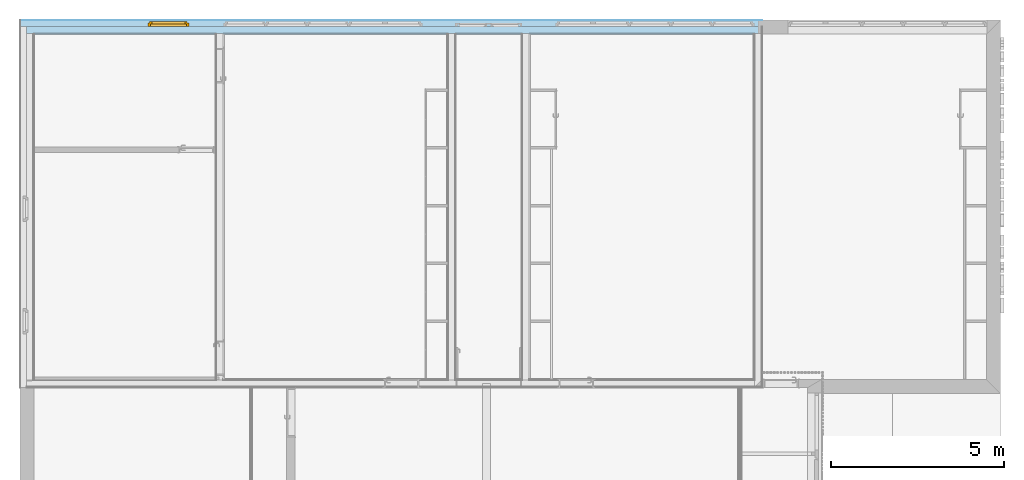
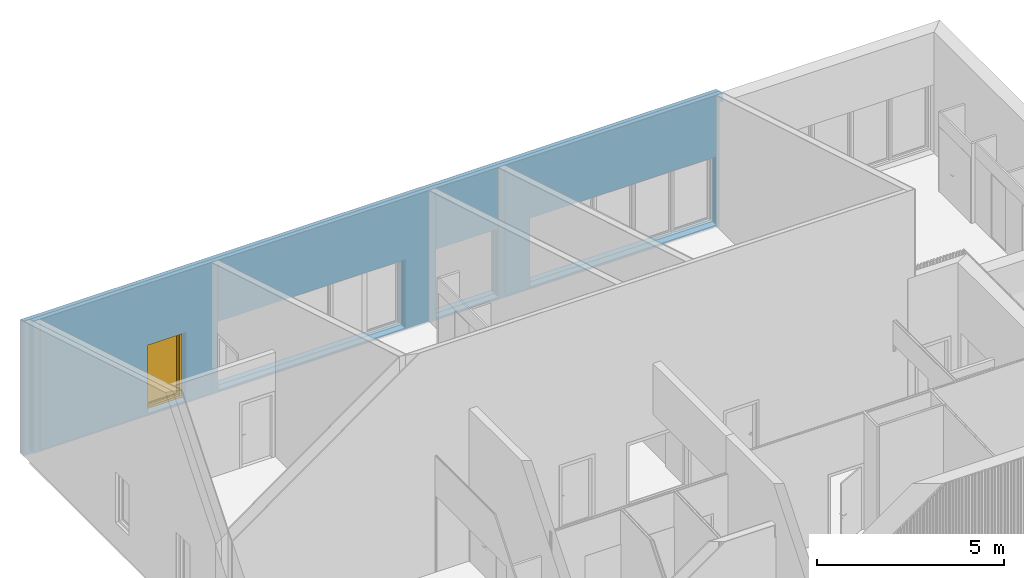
# One storey, part 19 of 34: 1 window, 4 openings, 1 element without a shape of its own, plus 4 elements that do not belong to this part.
"""IFC2X3 building model written with IfcOpenShell, lengths in metres."""

from ifc_helpers import new_model, entity, si_unit, converted_unit, derived_unit, money_unit, direction, frame, origin_with_axes, origin_2d_with_axis, place, context, subcontext, project, spatial, polyline, rectangle, outline, extrude, boolean, open_shell, faceted_brep, surface_model, material, type_object, element, fill, aggregate, save


model = new_model("IFC2X3")

# Units and contexts
model_context = context("Model", 3, precision=1e-05, world=origin_with_axes(), true_north=direction((0.0, 1.0)))
body_context = subcontext(model_context, "Body", "Model", "MODEL_VIEW")
ifc_project = project(units=[si_unit("LENGTHUNIT", "METRE"), si_unit("AREAUNIT", "SQUARE_METRE"), si_unit("VOLUMEUNIT", "CUBIC_METRE"), converted_unit("PLANEANGLEUNIT", "DEGREE", entity("IfcPlaneAngleMeasure", 0.0174532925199), si_unit("PLANEANGLEUNIT", "RADIAN"), dimensions=[0, 0, 0, 0, 0, 0, 0]), money_unit("CHF"), converted_unit("TIMEUNIT", "Year", entity("IfcTimeMeasure", 31556926.0), si_unit("TIMEUNIT", "SECOND"), dimensions=[0, 0, 1, 0, 0, 0, 0]), si_unit("MASSUNIT", "GRAM", prefix="KILO"), si_unit("THERMODYNAMICTEMPERATUREUNIT", "DEGREE_CELSIUS"), si_unit("LUMINOUSINTENSITYUNIT", "LUMEN"), si_unit("ENERGYUNIT", "JOULE", prefix="MEGA"), derived_unit("THERMALCONDUCTANCEUNIT", [(si_unit("POWERUNIT", "WATT"), 1), (si_unit("LENGTHUNIT", "METRE"), -1), (si_unit("THERMODYNAMICTEMPERATUREUNIT", "KELVIN"), -1)]), derived_unit("SPECIFICHEATCAPACITYUNIT", [(si_unit("ENERGYUNIT", "JOULE"), 1), (si_unit("MASSUNIT", "GRAM", prefix="KILO"), -1), (si_unit("THERMODYNAMICTEMPERATUREUNIT", "KELVIN"), -1)]), derived_unit("MASSDENSITYUNIT", [(si_unit("MASSUNIT", "GRAM", prefix="KILO"), 1), (si_unit("VOLUMEUNIT", "CUBIC_METRE"), -1)])], contexts=[model_context])

# Site, building, storey
site_placement = place(None, origin_with_axes())
site = spatial("IfcSite", under=ifc_project, at=site_placement, Name="Site", CompositionType="ELEMENT")
building_placement = place(site_placement, origin_with_axes())
building = spatial("IfcBuilding", under=site, at=building_placement, Name="Bâtiment", CompositionType="ELEMENT")
storey_placement = place(building_placement, origin_with_axes())
storey = spatial("IfcBuildingStorey", under=building, at=storey_placement, Name="Rez-de-chaussée", CompositionType="ELEMENT", Elevation=0.0)

# Window
window_style = type_object("IfcWindowStyle", Name="Fenêtre 26", ConstructionType="NOTDEFINED", OperationType="SINGLE_PANEL", ParameterTakesPrecedence=False, Sizeable=False)
wall_placement = place(storey_placement, frame((11.1494697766, 25.2201256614, -0.21), z_axis=(0.0, 0.0, 1.0), x_axis=(1.0, 0.0, 0.0)))
opening_3_placement = place(wall_placement, frame((4.0, 0.0, 0.21), z_axis=(0.0, 0.0, 1.0), x_axis=(1.0, 0.0, 0.0)))
window_placement = place(opening_3_placement, frame((-0.59, 0.0, 0.0), z_axis=(0.0, 0.0, 1.0), x_axis=(1.0, 0.0, 0.0)))
window = element("IfcWindow", 1, at=window_placement, inside=storey, type_object=window_style, Name="FENETRE-005", ObjectType="WINDOW", OverallHeight=2.25, OverallWidth=1.18, context=body_context, shape_type="SurfaceModel", body=[
    faceted_brep([(1.135, 0.2, 2.18), (1.135, 0.175, 2.18), (1.11, 0.175, 2.18), (1.11, 0.1, 2.18), (1.18, 0.1, 2.18), (1.18, 0.2, 2.18), (1.135, 0.2, 0.07), (1.135, 0.175, 0.07), (1.11, 0.175, 0.07), (1.11, 0.1, 0.07), (1.18, 0.1, 0.07), (1.18, 0.2, 0.07)], [[[0, 1, 2, 3, 4, 5]], [[1, 0, 6, 7]], [[8, 2, 1, 7]], [[2, 8, 9, 3]], [[4, 3, 9, 10]], [[5, 4, 10, 11]], [[6, 0, 5, 11]], [[7, 6, 11, 10, 9, 8]]]),
    faceted_brep([(0.07, 0.175, 2.18), (0.045, 0.175, 2.18), (0.045, 0.2, 2.18), (0.0, 0.2, 2.18), (0.0, 0.1, 2.18), (0.07, 0.1, 2.18), (0.07, 0.175, 0.07), (0.045, 0.175, 0.07), (0.045, 0.2, 0.07), (0.0, 0.2, 0.07), (0.0, 0.1, 0.07), (0.07, 0.1, 0.07)], [[[0, 1, 2, 3, 4, 5]], [[1, 0, 6, 7]], [[8, 2, 1, 7]], [[2, 8, 9, 3]], [[9, 10, 4, 3]], [[10, 11, 5, 4]], [[6, 0, 5, 11]], [[7, 6, 11, 10, 9, 8]]]),
    faceted_brep([(0.07, 0.175, 0.07), (0.045, 0.175, 0.07), (0.045, 0.2, 0.07), (0.0, 0.2, 0.07), (0.0, 0.1, 0.07), (0.07, 0.1, 0.07), (1.11, 0.175, 0.07), (1.135, 0.175, 0.07), (1.135, 0.175, 0.045), (0.045, 0.175, 0.045), (0.045, 0.2, 0.045), (1.135, 0.2, 0.045), (1.135, 0.2, 0.07), (1.18, 0.2, 0.07), (1.18, 0.2, 0.0), (0.0, 0.2, 0.0), (0.0, 0.1, 0.0), (1.18, 0.1, 0.07), (1.11, 0.1, 0.07), (1.18, 0.1, 0.0)], [[[0, 1, 2, 3, 4, 5]], [[1, 0, 6, 7, 8, 9]], [[10, 2, 1, 9]], [[11, 12, 13, 14, 15, 3, 2, 10]], [[15, 16, 4, 3]], [[17, 18, 5, 4, 16, 19]], [[6, 0, 5, 18]], [[7, 6, 18, 17, 13, 12]], [[7, 12, 11, 8]], [[11, 10, 9, 8]], [[13, 17, 19, 14]], [[14, 19, 16, 15]]]),
    faceted_brep([(1.135, 0.2, 2.18), (1.135, 0.2, 2.205), (0.045, 0.2, 2.205), (0.045, 0.2, 2.18), (0.0, 0.2, 2.18), (0.0, 0.2, 2.25), (1.18, 0.2, 2.25), (1.18, 0.2, 2.18), (1.135, 0.175, 2.18), (1.135, 0.175, 2.205), (0.045, 0.175, 2.205), (0.045, 0.175, 2.18), (0.07, 0.175, 2.18), (0.07, 0.1, 2.18), (0.0, 0.1, 2.18), (0.0, 0.1, 2.25), (1.18, 0.1, 2.25), (1.18, 0.1, 2.18), (1.11, 0.1, 2.18), (1.11, 0.175, 2.18)], [[[0, 1, 2, 3, 4, 5, 6, 7]], [[1, 0, 8, 9]], [[2, 1, 9, 10]], [[3, 2, 10, 11]], [[11, 12, 13, 14, 4, 3]], [[4, 14, 15, 5]], [[5, 15, 16, 6]], [[6, 16, 17, 7]], [[8, 0, 7, 17, 18, 19]], [[12, 11, 10, 9, 8, 19]], [[12, 19, 18, 13]], [[14, 13, 18, 17, 16, 15]]]),
    faceted_brep([(1.065, 0.175, 2.135), (1.135, 0.175, 2.135), (1.135, 0.245, 2.135), (1.065, 0.245, 2.135), (1.065, 0.175, 0.115), (1.135, 0.175, 0.115), (1.135, 0.245, 0.115), (1.065, 0.245, 0.115)], [[[0, 1, 2, 3]], [[0, 4, 5, 1]], [[1, 5, 6, 2]], [[3, 2, 6, 7]], [[4, 0, 3, 7]], [[5, 4, 7, 6]]]),
    faceted_brep([(0.115, 0.175, 0.115), (0.045, 0.175, 0.115), (0.045, 0.245, 0.115), (0.115, 0.245, 0.115), (0.115, 0.175, 2.135), (0.045, 0.175, 2.135), (0.045, 0.245, 2.135), (0.115, 0.245, 2.135)], [[[0, 1, 2, 3]], [[0, 4, 5, 1]], [[1, 5, 6, 2]], [[3, 2, 6, 7]], [[4, 0, 3, 7]], [[5, 4, 7, 6]]]),
    faceted_brep([(0.045, 0.175, 0.045), (0.045, 0.175, 0.115), (0.045, 0.245, 0.115), (0.045, 0.245, 0.045), (1.135, 0.175, 0.045), (1.135, 0.175, 0.115), (1.065, 0.175, 0.115), (0.115, 0.175, 0.115), (0.115, 0.245, 0.115), (1.065, 0.245, 0.115), (1.135, 0.245, 0.115), (1.135, 0.245, 0.045)], [[[0, 1, 2, 3]], [[0, 4, 5, 6, 7, 1]], [[1, 7, 8, 2]], [[3, 2, 8, 9, 10, 11]], [[4, 0, 3, 11]], [[5, 4, 11, 10]], [[6, 5, 10, 9]], [[7, 6, 9, 8]]]),
    faceted_brep([(1.135, 0.175, 2.205), (1.135, 0.175, 2.135), (1.135, 0.245, 2.135), (1.135, 0.245, 2.205), (0.045, 0.175, 2.205), (0.045, 0.175, 2.135), (0.115, 0.175, 2.135), (1.065, 0.175, 2.135), (1.065, 0.245, 2.135), (0.115, 0.245, 2.135), (0.045, 0.245, 2.135), (0.045, 0.245, 2.205)], [[[0, 1, 2, 3]], [[0, 4, 5, 6, 7, 1]], [[1, 7, 8, 2]], [[3, 2, 8, 9, 10, 11]], [[4, 0, 3, 11]], [[5, 4, 11, 10]], [[6, 5, 10, 9]], [[7, 6, 9, 8]]]),
    surface_model("IfcShellBasedSurfaceModel", [(1.065, 0.2, 0.115), (1.065, 0.2, 2.135), (0.115, 0.2, 2.135), (0.115, 0.2, 0.115)], [open_shell([[[0, 1, 2, 3]]])]),
    surface_model("IfcShellBasedSurfaceModel", [(1.065, 0.22, 0.115), (0.115, 0.22, 0.115), (0.115, 0.22, 2.135), (1.065, 0.22, 2.135)], [open_shell([[[0, 1, 2, 3]]])]),
])

# Wall, openings
wall_type = type_object("IfcWallType", Name="Mur 20cm + iso 18 + enduit  410", PredefinedType="NOTDEFINED")
wall = element("IfcWall", 2, at=wall_placement, inside=storey, type_object=wall_type, Name="Mur ext 20+18isolant")
opening_1_placement = place(wall_placement, frame((18.07, 0.0, 0.21), z_axis=(0.0, 0.0, 1.0), x_axis=(1.0, 0.0, 0.0)))
element("IfcOpeningElement", 3, at=opening_1_placement, cuts=wall, Name="FENETRE-005", context=body_context, shape_type="SweptSolid", body=[
    extrude(rectangle(XDim=5.76, YDim=2.25, at=origin_2d_with_axis()), frame((0.0, 0.2, 1.125), z_axis=(0.0, 1.0, 0.0), x_axis=(1.0, 0.0, 0.0)), (0.0, 0.0, -1.0), 0.73),
    extrude(rectangle(XDim=5.76, YDim=2.25, at=origin_2d_with_axis()), frame((0.0, 0.2, 1.125), z_axis=(0.0, -1.0, 0.0), x_axis=(1.0, 0.0, 0.0)), (0.0, 0.0, -1.0), 0.5),
])
opening_2_placement = place(wall_placement, frame((8.47, 0.0, 0.21), z_axis=(0.0, 0.0, 1.0), x_axis=(1.0, 0.0, 0.0)))
element("IfcOpeningElement", 4, at=opening_2_placement, cuts=wall, Name="FENETRE-005", context=body_context, shape_type="SweptSolid", body=[
    extrude(rectangle(XDim=5.76, YDim=2.25, at=origin_2d_with_axis()), frame((0.0, 0.2, 1.125), z_axis=(0.0, -1.0, 0.0), x_axis=(-1.0, 0.0, 0.0)), (0.0, 0.0, 1.0), 0.73),
    extrude(rectangle(XDim=5.76, YDim=2.25, at=origin_2d_with_axis()), frame((0.0, 0.2, 1.125), z_axis=(0.0, 1.0, 0.0), x_axis=(-1.0, 0.0, 0.0)), (0.0, 0.0, 1.0), 0.5),
])
opening_3 = element("IfcOpeningElement", 5, at=opening_3_placement, cuts=wall, Name="FENETRE-005", context=body_context, shape_type="SweptSolid", body=[
    extrude(rectangle(XDim=1.18, YDim=2.25, at=origin_2d_with_axis()), frame((0.0, 0.2, 1.125), z_axis=(0.0, -1.0, 0.0), x_axis=(-1.0, 0.0, 0.0)), (0.0, 0.0, 1.0), 0.73),
    extrude(rectangle(XDim=1.18, YDim=2.25, at=origin_2d_with_axis()), frame((0.0, 0.2, 1.125), z_axis=(0.0, 1.0, 0.0), x_axis=(-1.0, 0.0, 0.0)), (0.0, 0.0, 1.0), 0.5),
])

fill(opening_3, window)

# Opening
opening_4_placement = place(wall_placement, frame((13.2600628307, 0.0, 0.21), z_axis=(0.0, 0.0, 1.0), x_axis=(1.0, 0.0, 0.0)))
element("IfcOpeningElement", 6, at=opening_4_placement, cuts=wall, Name="PORTE-PP90 A2 - PF1/2H", context=body_context, shape_type="SweptSolid", body=[
    extrude(rectangle(XDim=1.93987433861, YDim=2.25, at=origin_2d_with_axis()), frame((0.0, 0.2, 1.125), z_axis=(0.0, 1.0, 0.0), x_axis=(1.0, 0.0, 0.0)), (0.0, 0.0, -1.0), 0.73),
    extrude(rectangle(XDim=1.93987433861, YDim=2.25, at=origin_2d_with_axis()), frame((0.0, 0.2, 1.125), z_axis=(0.0, -1.0, 0.0), x_axis=(1.0, 0.0, 0.0)), (0.0, 0.0, -1.0), 0.5),
])

# Building element part
ifc_material_1 = material(Name="Finition int - Enduit plâtre")
building_element_part_1_placement = place(wall_placement, origin_with_axes())
building_element_part_1 = element("IfcBuildingElementPart", 7, at=building_element_part_1_placement, material=ifc_material_1, Name="Finition int - Enduit plâtre", context=body_context, shape_type="CSG", body=[
    boolean("DIFFERENCE", boolean("DIFFERENCE", boolean("DIFFERENCE", boolean("DIFFERENCE", boolean("DIFFERENCE", boolean("DIFFERENCE", extrude(outline(polyline([(-0.29, -0.12), (21.17, -0.12), (21.17, -0.1), (-0.29, -0.1), (-0.29, -0.12)])), origin_with_axes(), (0.0, 0.0, 1.0), 5.17), faceted_brep([(-0.29, -0.12, 5.17), (-0.29, -0.12, 0.0), (21.17, -0.12, 0.0), (21.17, -0.12, 5.17), (14.43, -0.12, 0.2), (14.43, -0.12, 4.45417566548), (20.95, -0.12, 4.45417566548), (20.95, -0.12, 0.2), (12.29, -0.12, 0.2), (12.29, -0.12, 4.45417566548), (14.23, -0.12, 4.45417566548), (14.23, -0.12, 0.2), (5.59, -0.12, 0.2), (5.59, -0.12, 4.45417566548), (12.09, -0.12, 4.45417566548), (12.09, -0.12, 0.2), (0.1, -0.12, 0.2), (0.1, -0.12, 4.45417566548), (5.39, -0.12, 4.45417566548), (5.39, -0.12, 0.2), (-0.29, -0.1, 5.17), (-0.29, -0.1, 0.0), (21.17, -0.1, 0.0), (21.17, -0.1, 5.17), (14.43, -0.1, 0.2), (14.43, -0.1, 4.44817566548), (20.95, -0.1, 4.44817566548), (20.95, -0.1, 0.2), (12.29, -0.1, 0.2), (12.29, -0.1, 4.44817566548), (14.23, -0.1, 4.44817566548), (14.23, -0.1, 0.2), (5.59, -0.1, 0.2), (5.59, -0.1, 4.44817566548), (12.09, -0.1, 4.44817566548), (12.09, -0.1, 0.2), (0.1, -0.1, 0.2), (0.1, -0.1, 4.44817566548), (5.39, -0.1, 4.44817566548), (5.39, -0.1, 0.2)], [[[0, 1, 2, 3], [4, 5, 6, 7], [8, 9, 10, 11], [12, 13, 14, 15], [16, 17, 18, 19]], [[20, 21, 1, 0]], [[2, 1, 21, 22]], [[3, 2, 22, 23]], [[20, 0, 3, 23]], [[24, 25, 5, 4]], [[25, 26, 6, 5]], [[26, 27, 7, 6]], [[27, 24, 4, 7]], [[28, 29, 9, 8]], [[29, 30, 10, 9]], [[30, 31, 11, 10]], [[31, 28, 8, 11]], [[32, 33, 13, 12]], [[33, 34, 14, 13]], [[34, 35, 15, 14]], [[35, 32, 12, 15]], [[36, 37, 17, 16]], [[37, 38, 18, 17]], [[38, 39, 19, 18]], [[39, 36, 16, 19]], [[23, 22, 21, 20], [24, 27, 26, 25], [28, 31, 30, 29], [32, 35, 34, 33], [36, 39, 38, 37]]])), faceted_brep([(-0.29, -0.1, 5.17), (-0.29, -0.1, 0.0), (21.17, -0.1, 0.0), (21.17, -0.1, 5.17), (14.43, -0.1, 4.44817566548), (20.95, -0.1, 4.44817566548), (21.15, -0.1, 4.44817566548), (21.15, -0.1, 4.17), (21.05, -0.1, 4.17), (21.05, -0.1, 0.13), (-0.1, -0.1, 0.13), (-0.1, -0.1, 4.44817566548), (0.1, -0.1, 4.44817566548), (5.39, -0.1, 4.44817566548), (5.59, -0.1, 4.44817566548), (12.09, -0.1, 4.44817566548), (12.29, -0.1, 4.44817566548), (14.23, -0.1, 4.44817566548), (-0.29, 0.1, 5.17), (-0.29, 0.1, 0.0), (21.17, 0.1, 0.0), (21.17, 0.1, 5.17), (-0.1, 0.1, 4.38817566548), (21.15, 0.1, 4.38817566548), (21.15, 0.1, 4.17), (21.05, 0.1, 4.17), (21.05, 0.1, 0.13), (-0.1, 0.1, 0.13)], [[[0, 1, 2, 3], [4, 5, 6, 7, 8, 9, 10, 11, 12, 13, 14, 15, 16, 17]], [[18, 19, 1, 0]], [[2, 1, 19, 20]], [[3, 2, 20, 21]], [[18, 0, 3, 21]], [[22, 23, 6, 5, 4, 17, 16, 15, 14, 13, 12, 11]], [[23, 24, 7, 6]], [[24, 25, 8, 7]], [[25, 26, 9, 8]], [[26, 27, 10, 9]], [[27, 22, 11, 10]], [[21, 20, 19, 18], [25, 24, 23, 22, 27, 26]]])), faceted_brep([(21.05, 0.28, 0.13), (21.05, 0.28, 4.17), (21.17, 0.28, 4.17), (21.17, 0.28, 0.0), (21.05, 0.28, 0.0), (21.05, 0.1, 0.13), (21.05, 0.1, 4.17), (21.17, 0.1, 4.17), (21.15, 0.1, 4.17), (21.17, 0.1, 0.0), (21.05, 0.1, 0.0)], [[[0, 1, 2, 3, 4]], [[1, 0, 5, 6]], [[7, 2, 1, 6, 8]], [[2, 7, 9, 3]], [[10, 4, 3, 9]], [[4, 10, 5, 0]], [[5, 10, 9, 7, 8, 6]]])), faceted_brep([(21.17, 0.1, 4.38817566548), (21.17, 0.28, 4.33417566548), (21.17, 0.28, 5.17), (21.17, 0.1, 5.17), (-0.28, 0.28, 4.33417566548), (21.15, 0.1, 4.38817566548), (-0.1, 0.1, 4.38817566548), (-0.28, 0.1, 4.38817566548), (-0.28, 0.28, 0.0), (-0.29, 0.28, 0.0), (-0.29, 0.28, 5.17), (-0.29, 0.1, 5.17), (-0.29, 0.1, 0.0), (-0.28, 0.1, 0.0)], [[[0, 1, 2, 3]], [[4, 1, 0, 5, 6, 7]], [[4, 8, 9, 10, 2, 1]], [[10, 11, 3, 2]], [[5, 0, 3, 11, 12, 13, 7, 6]], [[8, 4, 7, 13]], [[8, 13, 12, 9]], [[10, 9, 12, 11]]])), faceted_brep([(21.05, 0.29, 0.13), (21.05, 0.290000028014, 4.17), (21.17, 0.290000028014, 4.17), (21.17, 0.29, 0.0), (21.05, 0.29, 0.0), (21.05, 0.28, 0.13), (21.05, 0.28, 4.17), (21.17, 0.28, 4.17), (21.17, 0.28, 0.0), (21.05, 0.28, 0.0)], [[[0, 1, 2, 3, 4]], [[1, 0, 5, 6]], [[7, 2, 1, 6]], [[2, 7, 8, 3]], [[9, 4, 3, 8]], [[0, 4, 9, 5]], [[5, 9, 8, 7, 6]]])), faceted_brep([(21.17, 0.28, 4.33417566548), (21.17, 0.290000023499, 4.33117565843), (21.17, 0.29, 5.17), (21.17, 0.28, 5.17), (-0.290000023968, 0.29, 4.33117566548), (-0.28, 0.28, 4.33417566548), (-0.290000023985, 0.28, 4.33417566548), (-0.29, 0.29, 5.17), (-0.29, 0.28, 5.17)], [[[0, 1, 2, 3]], [[4, 1, 0, 5, 6]], [[1, 4, 7, 2]], [[7, 8, 3, 2]], [[5, 0, 3, 8, 6]], [[4, 6, 8, 7]]])),
])

ifc_material_2 = material(Name="Béton armé (Coulé)")
building_element_part_2_placement = place(wall_placement, origin_with_axes())
building_element_part_2 = element("IfcBuildingElementPart", 8, at=building_element_part_2_placement, material=ifc_material_2, Name="Béton armé (Coulé)", context=body_context, shape_type="CSG", body=[
    boolean("DIFFERENCE", boolean("DIFFERENCE", boolean("DIFFERENCE", boolean("DIFFERENCE", boolean("DIFFERENCE", boolean("DIFFERENCE", extrude(outline(polyline([(-0.29, -0.1), (21.17, -0.1), (21.17, 0.1), (-0.29, 0.1), (-0.29, -0.1)])), origin_with_axes(), (0.0, 0.0, 1.0), 5.17), faceted_brep([(-0.29, -0.12, 5.17), (-0.29, -0.12, 0.0), (21.17, -0.12, 0.0), (21.17, -0.12, 5.17), (14.43, -0.12, 0.2), (14.43, -0.12, 4.45417566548), (20.95, -0.12, 4.45417566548), (20.95, -0.12, 0.2), (12.29, -0.12, 0.2), (12.29, -0.12, 4.45417566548), (14.23, -0.12, 4.45417566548), (14.23, -0.12, 0.2), (5.59, -0.12, 0.2), (5.59, -0.12, 4.45417566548), (12.09, -0.12, 4.45417566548), (12.09, -0.12, 0.2), (0.1, -0.12, 0.2), (0.1, -0.12, 4.45417566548), (5.39, -0.12, 4.45417566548), (5.39, -0.12, 0.2), (-0.29, -0.1, 5.17), (-0.29, -0.1, 0.0), (21.17, -0.1, 0.0), (21.17, -0.1, 5.17), (14.43, -0.1, 0.2), (14.43, -0.1, 4.44817566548), (20.95, -0.1, 4.44817566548), (20.95, -0.1, 0.2), (12.29, -0.1, 0.2), (12.29, -0.1, 4.44817566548), (14.23, -0.1, 4.44817566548), (14.23, -0.1, 0.2), (5.59, -0.1, 0.2), (5.59, -0.1, 4.44817566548), (12.09, -0.1, 4.44817566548), (12.09, -0.1, 0.2), (0.1, -0.1, 0.2), (0.1, -0.1, 4.44817566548), (5.39, -0.1, 4.44817566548), (5.39, -0.1, 0.2)], [[[0, 1, 2, 3], [4, 5, 6, 7], [8, 9, 10, 11], [12, 13, 14, 15], [16, 17, 18, 19]], [[20, 21, 1, 0]], [[2, 1, 21, 22]], [[3, 2, 22, 23]], [[20, 0, 3, 23]], [[24, 25, 5, 4]], [[25, 26, 6, 5]], [[26, 27, 7, 6]], [[27, 24, 4, 7]], [[28, 29, 9, 8]], [[29, 30, 10, 9]], [[30, 31, 11, 10]], [[31, 28, 8, 11]], [[32, 33, 13, 12]], [[33, 34, 14, 13]], [[34, 35, 15, 14]], [[35, 32, 12, 15]], [[36, 37, 17, 16]], [[37, 38, 18, 17]], [[38, 39, 19, 18]], [[39, 36, 16, 19]], [[23, 22, 21, 20], [24, 27, 26, 25], [28, 31, 30, 29], [32, 35, 34, 33], [36, 39, 38, 37]]])), faceted_brep([(-0.29, -0.1, 5.17), (-0.29, -0.1, 0.0), (21.17, -0.1, 0.0), (21.17, -0.1, 5.17), (14.43, -0.1, 4.44817566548), (20.95, -0.1, 4.44817566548), (21.15, -0.1, 4.44817566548), (21.15, -0.1, 4.17), (21.05, -0.1, 4.17), (21.05, -0.1, 0.13), (-0.1, -0.1, 0.13), (-0.1, -0.1, 4.44817566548), (0.1, -0.1, 4.44817566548), (5.39, -0.1, 4.44817566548), (5.59, -0.1, 4.44817566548), (12.09, -0.1, 4.44817566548), (12.29, -0.1, 4.44817566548), (14.23, -0.1, 4.44817566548), (-0.29, 0.1, 5.17), (-0.29, 0.1, 0.0), (21.17, 0.1, 0.0), (21.17, 0.1, 5.17), (-0.1, 0.1, 4.38817566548), (21.15, 0.1, 4.38817566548), (21.15, 0.1, 4.17), (21.05, 0.1, 4.17), (21.05, 0.1, 0.13), (-0.1, 0.1, 0.13)], [[[0, 1, 2, 3], [4, 5, 6, 7, 8, 9, 10, 11, 12, 13, 14, 15, 16, 17]], [[18, 19, 1, 0]], [[2, 1, 19, 20]], [[3, 2, 20, 21]], [[18, 0, 3, 21]], [[22, 23, 6, 5, 4, 17, 16, 15, 14, 13, 12, 11]], [[23, 24, 7, 6]], [[24, 25, 8, 7]], [[25, 26, 9, 8]], [[26, 27, 10, 9]], [[27, 22, 11, 10]], [[21, 20, 19, 18], [25, 24, 23, 22, 27, 26]]])), faceted_brep([(21.05, 0.28, 0.13), (21.05, 0.28, 4.17), (21.17, 0.28, 4.17), (21.17, 0.28, 0.0), (21.05, 0.28, 0.0), (21.05, 0.1, 0.13), (21.05, 0.1, 4.17), (21.17, 0.1, 4.17), (21.15, 0.1, 4.17), (21.17, 0.1, 0.0), (21.05, 0.1, 0.0)], [[[0, 1, 2, 3, 4]], [[1, 0, 5, 6]], [[7, 2, 1, 6, 8]], [[2, 7, 9, 3]], [[10, 4, 3, 9]], [[4, 10, 5, 0]], [[5, 10, 9, 7, 8, 6]]])), faceted_brep([(21.17, 0.1, 4.38817566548), (21.17, 0.28, 4.33417566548), (21.17, 0.28, 5.17), (21.17, 0.1, 5.17), (-0.28, 0.28, 4.33417566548), (21.15, 0.1, 4.38817566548), (-0.1, 0.1, 4.38817566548), (-0.28, 0.1, 4.38817566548), (-0.28, 0.28, 0.0), (-0.29, 0.28, 0.0), (-0.29, 0.28, 5.17), (-0.29, 0.1, 5.17), (-0.29, 0.1, 0.0), (-0.28, 0.1, 0.0)], [[[0, 1, 2, 3]], [[4, 1, 0, 5, 6, 7]], [[4, 8, 9, 10, 2, 1]], [[10, 11, 3, 2]], [[5, 0, 3, 11, 12, 13, 7, 6]], [[8, 4, 7, 13]], [[8, 13, 12, 9]], [[10, 9, 12, 11]]])), faceted_brep([(21.05, 0.29, 0.13), (21.05, 0.290000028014, 4.17), (21.17, 0.290000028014, 4.17), (21.17, 0.29, 0.0), (21.05, 0.29, 0.0), (21.05, 0.28, 0.13), (21.05, 0.28, 4.17), (21.17, 0.28, 4.17), (21.17, 0.28, 0.0), (21.05, 0.28, 0.0)], [[[0, 1, 2, 3, 4]], [[1, 0, 5, 6]], [[7, 2, 1, 6]], [[2, 7, 8, 3]], [[9, 4, 3, 8]], [[0, 4, 9, 5]], [[5, 9, 8, 7, 6]]])), faceted_brep([(21.17, 0.28, 4.33417566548), (21.17, 0.290000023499, 4.33117565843), (21.17, 0.29, 5.17), (21.17, 0.28, 5.17), (-0.290000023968, 0.29, 4.33117566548), (-0.28, 0.28, 4.33417566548), (-0.290000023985, 0.28, 4.33417566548), (-0.29, 0.29, 5.17), (-0.29, 0.28, 5.17)], [[[0, 1, 2, 3]], [[4, 1, 0, 5, 6]], [[1, 4, 7, 2]], [[7, 8, 3, 2]], [[5, 0, 3, 8, 6]], [[4, 6, 8, 7]]])),
])

ifc_material_3 = material(Name="Isolation - Fibres de bois")
building_element_part_3_placement = place(wall_placement, origin_with_axes())
building_element_part_3 = element("IfcBuildingElementPart", 9, at=building_element_part_3_placement, material=ifc_material_3, Name="Isolation - Fibres de bois", context=body_context, shape_type="CSG", body=[
    boolean("DIFFERENCE", boolean("DIFFERENCE", boolean("DIFFERENCE", boolean("DIFFERENCE", boolean("DIFFERENCE", boolean("DIFFERENCE", extrude(outline(polyline([(-0.29, 0.1), (21.17, 0.1), (21.17, 0.28), (-0.29, 0.28), (-0.29, 0.1)])), origin_with_axes(), (0.0, 0.0, 1.0), 5.17), faceted_brep([(-0.29, -0.12, 5.17), (-0.29, -0.12, 0.0), (21.17, -0.12, 0.0), (21.17, -0.12, 5.17), (14.43, -0.12, 0.2), (14.43, -0.12, 4.45417566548), (20.95, -0.12, 4.45417566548), (20.95, -0.12, 0.2), (12.29, -0.12, 0.2), (12.29, -0.12, 4.45417566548), (14.23, -0.12, 4.45417566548), (14.23, -0.12, 0.2), (5.59, -0.12, 0.2), (5.59, -0.12, 4.45417566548), (12.09, -0.12, 4.45417566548), (12.09, -0.12, 0.2), (0.1, -0.12, 0.2), (0.1, -0.12, 4.45417566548), (5.39, -0.12, 4.45417566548), (5.39, -0.12, 0.2), (-0.29, -0.1, 5.17), (-0.29, -0.1, 0.0), (21.17, -0.1, 0.0), (21.17, -0.1, 5.17), (14.43, -0.1, 0.2), (14.43, -0.1, 4.44817566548), (20.95, -0.1, 4.44817566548), (20.95, -0.1, 0.2), (12.29, -0.1, 0.2), (12.29, -0.1, 4.44817566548), (14.23, -0.1, 4.44817566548), (14.23, -0.1, 0.2), (5.59, -0.1, 0.2), (5.59, -0.1, 4.44817566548), (12.09, -0.1, 4.44817566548), (12.09, -0.1, 0.2), (0.1, -0.1, 0.2), (0.1, -0.1, 4.44817566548), (5.39, -0.1, 4.44817566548), (5.39, -0.1, 0.2)], [[[0, 1, 2, 3], [4, 5, 6, 7], [8, 9, 10, 11], [12, 13, 14, 15], [16, 17, 18, 19]], [[20, 21, 1, 0]], [[2, 1, 21, 22]], [[3, 2, 22, 23]], [[20, 0, 3, 23]], [[24, 25, 5, 4]], [[25, 26, 6, 5]], [[26, 27, 7, 6]], [[27, 24, 4, 7]], [[28, 29, 9, 8]], [[29, 30, 10, 9]], [[30, 31, 11, 10]], [[31, 28, 8, 11]], [[32, 33, 13, 12]], [[33, 34, 14, 13]], [[34, 35, 15, 14]], [[35, 32, 12, 15]], [[36, 37, 17, 16]], [[37, 38, 18, 17]], [[38, 39, 19, 18]], [[39, 36, 16, 19]], [[23, 22, 21, 20], [24, 27, 26, 25], [28, 31, 30, 29], [32, 35, 34, 33], [36, 39, 38, 37]]])), faceted_brep([(-0.29, -0.1, 5.17), (-0.29, -0.1, 0.0), (21.17, -0.1, 0.0), (21.17, -0.1, 5.17), (14.43, -0.1, 4.44817566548), (20.95, -0.1, 4.44817566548), (21.15, -0.1, 4.44817566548), (21.15, -0.1, 4.17), (21.05, -0.1, 4.17), (21.05, -0.1, 0.13), (-0.1, -0.1, 0.13), (-0.1, -0.1, 4.44817566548), (0.1, -0.1, 4.44817566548), (5.39, -0.1, 4.44817566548), (5.59, -0.1, 4.44817566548), (12.09, -0.1, 4.44817566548), (12.29, -0.1, 4.44817566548), (14.23, -0.1, 4.44817566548), (-0.29, 0.1, 5.17), (-0.29, 0.1, 0.0), (21.17, 0.1, 0.0), (21.17, 0.1, 5.17), (-0.1, 0.1, 4.38817566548), (21.15, 0.1, 4.38817566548), (21.15, 0.1, 4.17), (21.05, 0.1, 4.17), (21.05, 0.1, 0.13), (-0.1, 0.1, 0.13)], [[[0, 1, 2, 3], [4, 5, 6, 7, 8, 9, 10, 11, 12, 13, 14, 15, 16, 17]], [[18, 19, 1, 0]], [[2, 1, 19, 20]], [[3, 2, 20, 21]], [[18, 0, 3, 21]], [[22, 23, 6, 5, 4, 17, 16, 15, 14, 13, 12, 11]], [[23, 24, 7, 6]], [[24, 25, 8, 7]], [[25, 26, 9, 8]], [[26, 27, 10, 9]], [[27, 22, 11, 10]], [[21, 20, 19, 18], [25, 24, 23, 22, 27, 26]]])), faceted_brep([(21.05, 0.28, 0.13), (21.05, 0.28, 4.17), (21.17, 0.28, 4.17), (21.17, 0.28, 0.0), (21.05, 0.28, 0.0), (21.05, 0.1, 0.13), (21.05, 0.1, 4.17), (21.17, 0.1, 4.17), (21.15, 0.1, 4.17), (21.17, 0.1, 0.0), (21.05, 0.1, 0.0)], [[[0, 1, 2, 3, 4]], [[1, 0, 5, 6]], [[7, 2, 1, 6, 8]], [[2, 7, 9, 3]], [[10, 4, 3, 9]], [[4, 10, 5, 0]], [[5, 10, 9, 7, 8, 6]]])), faceted_brep([(21.17, 0.1, 4.38817566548), (21.17, 0.28, 4.33417566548), (21.17, 0.28, 5.17), (21.17, 0.1, 5.17), (-0.28, 0.28, 4.33417566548), (21.15, 0.1, 4.38817566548), (-0.1, 0.1, 4.38817566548), (-0.28, 0.1, 4.38817566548), (-0.28, 0.28, 0.0), (-0.29, 0.28, 0.0), (-0.29, 0.28, 5.17), (-0.29, 0.1, 5.17), (-0.29, 0.1, 0.0), (-0.28, 0.1, 0.0)], [[[0, 1, 2, 3]], [[4, 1, 0, 5, 6, 7]], [[4, 8, 9, 10, 2, 1]], [[10, 11, 3, 2]], [[5, 0, 3, 11, 12, 13, 7, 6]], [[8, 4, 7, 13]], [[8, 13, 12, 9]], [[10, 9, 12, 11]]])), faceted_brep([(21.05, 0.29, 0.13), (21.05, 0.290000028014, 4.17), (21.17, 0.290000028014, 4.17), (21.17, 0.29, 0.0), (21.05, 0.29, 0.0), (21.05, 0.28, 0.13), (21.05, 0.28, 4.17), (21.17, 0.28, 4.17), (21.17, 0.28, 0.0), (21.05, 0.28, 0.0)], [[[0, 1, 2, 3, 4]], [[1, 0, 5, 6]], [[7, 2, 1, 6]], [[2, 7, 8, 3]], [[9, 4, 3, 8]], [[0, 4, 9, 5]], [[5, 9, 8, 7, 6]]])), faceted_brep([(21.17, 0.28, 4.33417566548), (21.17, 0.290000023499, 4.33117565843), (21.17, 0.29, 5.17), (21.17, 0.28, 5.17), (-0.290000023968, 0.29, 4.33117566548), (-0.28, 0.28, 4.33417566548), (-0.290000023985, 0.28, 4.33417566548), (-0.29, 0.29, 5.17), (-0.29, 0.28, 5.17)], [[[0, 1, 2, 3]], [[4, 1, 0, 5, 6]], [[1, 4, 7, 2]], [[7, 8, 3, 2]], [[5, 0, 3, 8, 6]], [[4, 6, 8, 7]]])),
])

ifc_material_4 = material(Name="Finition int - Enduit minéral")
building_element_part_4_placement = place(wall_placement, origin_with_axes())
building_element_part_4 = element("IfcBuildingElementPart", 10, at=building_element_part_4_placement, material=ifc_material_4, Name="Finition int - Enduit minéral", context=body_context, shape_type="CSG", body=[
    boolean("DIFFERENCE", boolean("DIFFERENCE", boolean("DIFFERENCE", boolean("DIFFERENCE", boolean("DIFFERENCE", boolean("DIFFERENCE", extrude(outline(polyline([(-0.29, 0.28), (21.17, 0.28), (21.17, 0.29), (-0.29, 0.29), (-0.29, 0.28)])), origin_with_axes(), (0.0, 0.0, 1.0), 5.17), faceted_brep([(-0.29, -0.12, 5.17), (-0.29, -0.12, 0.0), (21.17, -0.12, 0.0), (21.17, -0.12, 5.17), (14.43, -0.12, 0.2), (14.43, -0.12, 4.45417566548), (20.95, -0.12, 4.45417566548), (20.95, -0.12, 0.2), (12.29, -0.12, 0.2), (12.29, -0.12, 4.45417566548), (14.23, -0.12, 4.45417566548), (14.23, -0.12, 0.2), (5.59, -0.12, 0.2), (5.59, -0.12, 4.45417566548), (12.09, -0.12, 4.45417566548), (12.09, -0.12, 0.2), (0.1, -0.12, 0.2), (0.1, -0.12, 4.45417566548), (5.39, -0.12, 4.45417566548), (5.39, -0.12, 0.2), (-0.29, -0.1, 5.17), (-0.29, -0.1, 0.0), (21.17, -0.1, 0.0), (21.17, -0.1, 5.17), (14.43, -0.1, 0.2), (14.43, -0.1, 4.44817566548), (20.95, -0.1, 4.44817566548), (20.95, -0.1, 0.2), (12.29, -0.1, 0.2), (12.29, -0.1, 4.44817566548), (14.23, -0.1, 4.44817566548), (14.23, -0.1, 0.2), (5.59, -0.1, 0.2), (5.59, -0.1, 4.44817566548), (12.09, -0.1, 4.44817566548), (12.09, -0.1, 0.2), (0.1, -0.1, 0.2), (0.1, -0.1, 4.44817566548), (5.39, -0.1, 4.44817566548), (5.39, -0.1, 0.2)], [[[0, 1, 2, 3], [4, 5, 6, 7], [8, 9, 10, 11], [12, 13, 14, 15], [16, 17, 18, 19]], [[20, 21, 1, 0]], [[2, 1, 21, 22]], [[3, 2, 22, 23]], [[20, 0, 3, 23]], [[24, 25, 5, 4]], [[25, 26, 6, 5]], [[26, 27, 7, 6]], [[27, 24, 4, 7]], [[28, 29, 9, 8]], [[29, 30, 10, 9]], [[30, 31, 11, 10]], [[31, 28, 8, 11]], [[32, 33, 13, 12]], [[33, 34, 14, 13]], [[34, 35, 15, 14]], [[35, 32, 12, 15]], [[36, 37, 17, 16]], [[37, 38, 18, 17]], [[38, 39, 19, 18]], [[39, 36, 16, 19]], [[23, 22, 21, 20], [24, 27, 26, 25], [28, 31, 30, 29], [32, 35, 34, 33], [36, 39, 38, 37]]])), faceted_brep([(-0.29, -0.1, 5.17), (-0.29, -0.1, 0.0), (21.17, -0.1, 0.0), (21.17, -0.1, 5.17), (14.43, -0.1, 4.44817566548), (20.95, -0.1, 4.44817566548), (21.15, -0.1, 4.44817566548), (21.15, -0.1, 4.17), (21.05, -0.1, 4.17), (21.05, -0.1, 0.13), (-0.1, -0.1, 0.13), (-0.1, -0.1, 4.44817566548), (0.1, -0.1, 4.44817566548), (5.39, -0.1, 4.44817566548), (5.59, -0.1, 4.44817566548), (12.09, -0.1, 4.44817566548), (12.29, -0.1, 4.44817566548), (14.23, -0.1, 4.44817566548), (-0.29, 0.1, 5.17), (-0.29, 0.1, 0.0), (21.17, 0.1, 0.0), (21.17, 0.1, 5.17), (-0.1, 0.1, 4.38817566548), (21.15, 0.1, 4.38817566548), (21.15, 0.1, 4.17), (21.05, 0.1, 4.17), (21.05, 0.1, 0.13), (-0.1, 0.1, 0.13)], [[[0, 1, 2, 3], [4, 5, 6, 7, 8, 9, 10, 11, 12, 13, 14, 15, 16, 17]], [[18, 19, 1, 0]], [[2, 1, 19, 20]], [[3, 2, 20, 21]], [[18, 0, 3, 21]], [[22, 23, 6, 5, 4, 17, 16, 15, 14, 13, 12, 11]], [[23, 24, 7, 6]], [[24, 25, 8, 7]], [[25, 26, 9, 8]], [[26, 27, 10, 9]], [[27, 22, 11, 10]], [[21, 20, 19, 18], [25, 24, 23, 22, 27, 26]]])), faceted_brep([(21.05, 0.28, 0.13), (21.05, 0.28, 4.17), (21.17, 0.28, 4.17), (21.17, 0.28, 0.0), (21.05, 0.28, 0.0), (21.05, 0.1, 0.13), (21.05, 0.1, 4.17), (21.17, 0.1, 4.17), (21.15, 0.1, 4.17), (21.17, 0.1, 0.0), (21.05, 0.1, 0.0)], [[[0, 1, 2, 3, 4]], [[1, 0, 5, 6]], [[7, 2, 1, 6, 8]], [[2, 7, 9, 3]], [[10, 4, 3, 9]], [[4, 10, 5, 0]], [[5, 10, 9, 7, 8, 6]]])), faceted_brep([(21.17, 0.1, 4.38817566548), (21.17, 0.28, 4.33417566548), (21.17, 0.28, 5.17), (21.17, 0.1, 5.17), (-0.28, 0.28, 4.33417566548), (21.15, 0.1, 4.38817566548), (-0.1, 0.1, 4.38817566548), (-0.28, 0.1, 4.38817566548), (-0.28, 0.28, 0.0), (-0.29, 0.28, 0.0), (-0.29, 0.28, 5.17), (-0.29, 0.1, 5.17), (-0.29, 0.1, 0.0), (-0.28, 0.1, 0.0)], [[[0, 1, 2, 3]], [[4, 1, 0, 5, 6, 7]], [[4, 8, 9, 10, 2, 1]], [[10, 11, 3, 2]], [[5, 0, 3, 11, 12, 13, 7, 6]], [[8, 4, 7, 13]], [[8, 13, 12, 9]], [[10, 9, 12, 11]]])), faceted_brep([(21.05, 0.29, 0.13), (21.05, 0.290000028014, 4.17), (21.17, 0.290000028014, 4.17), (21.17, 0.29, 0.0), (21.05, 0.29, 0.0), (21.05, 0.28, 0.13), (21.05, 0.28, 4.17), (21.17, 0.28, 4.17), (21.17, 0.28, 0.0), (21.05, 0.28, 0.0)], [[[0, 1, 2, 3, 4]], [[1, 0, 5, 6]], [[7, 2, 1, 6]], [[2, 7, 8, 3]], [[9, 4, 3, 8]], [[0, 4, 9, 5]], [[5, 9, 8, 7, 6]]])), faceted_brep([(21.17, 0.28, 4.33417566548), (21.17, 0.290000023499, 4.33117565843), (21.17, 0.29, 5.17), (21.17, 0.28, 5.17), (-0.290000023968, 0.29, 4.33117566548), (-0.28, 0.28, 4.33417566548), (-0.290000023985, 0.28, 4.33417566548), (-0.29, 0.29, 5.17), (-0.29, 0.28, 5.17)], [[[0, 1, 2, 3]], [[4, 1, 0, 5, 6]], [[1, 4, 7, 2]], [[7, 8, 3, 2]], [[5, 0, 3, 8, 6]], [[4, 6, 8, 7]]])),
])

aggregate(wall, [building_element_part_1, building_element_part_2, building_element_part_3, building_element_part_4])

save(model, "model.ifc")
